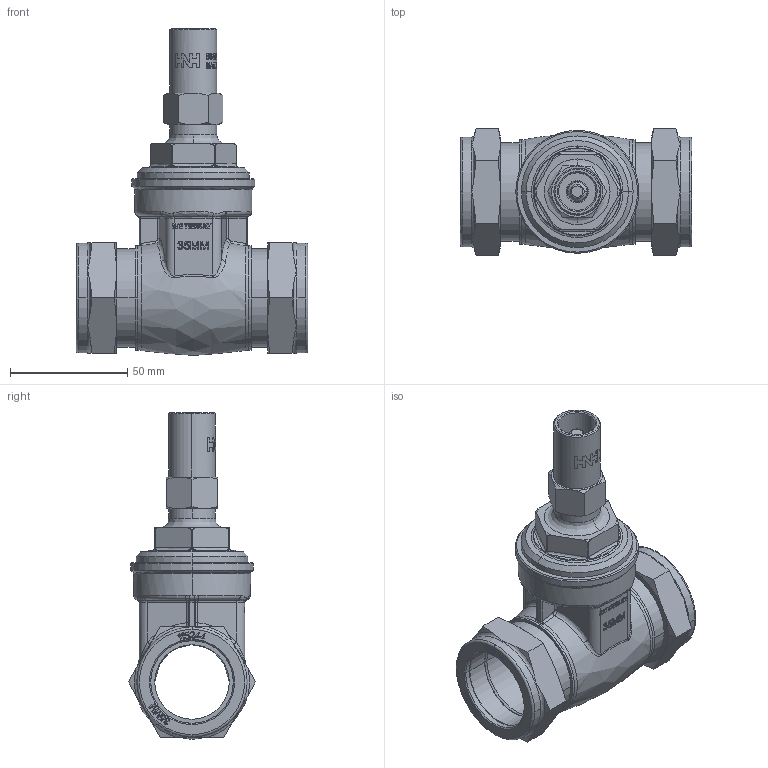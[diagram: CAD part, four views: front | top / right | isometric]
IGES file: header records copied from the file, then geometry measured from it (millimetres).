
Global section: file name: No Iges File Name specified; native system: AutoDesk Inventor R12.0; preprocessor: AutoDesk Inventor Iges Exporter R12.0; date: 20110309.124649; units: millimetre
Bounding box: 99.01 x 54.27 x 139.5 mm (x, y, z)
Volume: 150890 mm3; surface area: 51569.2 mm2
Topology: 1 solids, 1 shells, 1263 faces, 3351 edges, 2185 vertices
Faces by surface type: plane 601, bspline 437, cylinder 83, revolution 72, cone 48, torus 22
